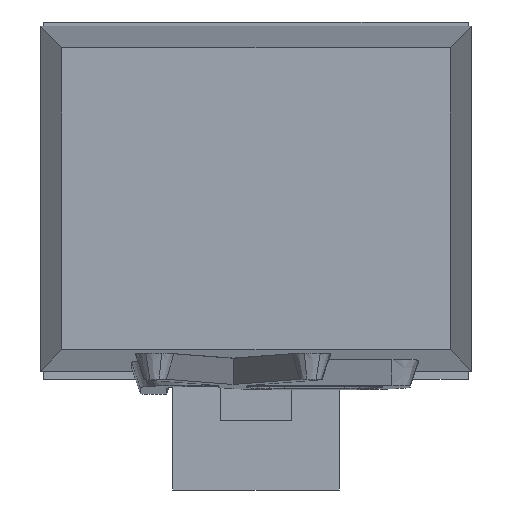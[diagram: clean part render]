
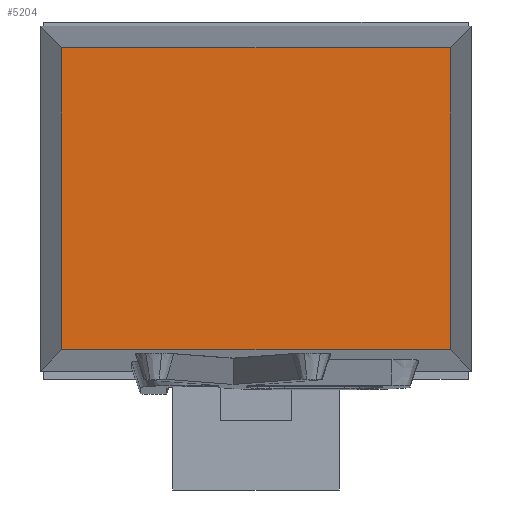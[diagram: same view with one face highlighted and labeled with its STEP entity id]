
A CAD part, front view. The second image highlights one B-rep face of the part: STEP entity #5204.
In plain terms, the highlighted planar face has unit normal (0, -1, 0).
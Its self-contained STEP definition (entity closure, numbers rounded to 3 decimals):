
#320=PLANE('',#5556);
#617=FACE_OUTER_BOUND('',#931,.T.);
#931=EDGE_LOOP('',(#4863,#4864,#4865,#4866));
#1638=LINE('',#9997,#2157);
#1641=LINE('',#10017,#2160);
#1643=LINE('',#10022,#2162);
#1645=LINE('',#10025,#2164);
#2157=VECTOR('',#6724,10.);
#2160=VECTOR('',#6739,10.);
#2162=VECTOR('',#6745,10.);
#2164=VECTOR('',#6749,10.);
#2626=VERTEX_POINT('',#9994);
#2627=VERTEX_POINT('',#9996);
#2630=VERTEX_POINT('',#10016);
#2631=VERTEX_POINT('',#10021);
#3366=EDGE_CURVE('',#2626,#2627,#1638,.T.);
#3372=EDGE_CURVE('',#2630,#2626,#1641,.T.);
#3374=EDGE_CURVE('',#2627,#2631,#1643,.T.);
#3376=EDGE_CURVE('',#2631,#2630,#1645,.T.);
#4863=ORIENTED_EDGE('',*,*,#3372,.F.);
#4864=ORIENTED_EDGE('',*,*,#3376,.F.);
#4865=ORIENTED_EDGE('',*,*,#3374,.F.);
#4866=ORIENTED_EDGE('',*,*,#3366,.F.);
#5204=ADVANCED_FACE('',(#617),#320,.F.);
#5556=AXIS2_PLACEMENT_3D('',#10026,#6750,#6751);
#6724=DIRECTION('',(-1.,0.,0.));
#6739=DIRECTION('',(0.,0.,-1.));
#6745=DIRECTION('',(0.,0.,1.));
#6749=DIRECTION('',(1.,0.,0.));
#6750=DIRECTION('center_axis',(0.,1.,0.));
#6751=DIRECTION('ref_axis',(-1.,0.,0.));
#9994=CARTESIAN_POINT('',(4.5,-15.983,-3.458));
#9996=CARTESIAN_POINT('',(-4.5,-15.983,-3.458));
#9997=CARTESIAN_POINT('',(2.5,-15.983,-3.458));
#10016=CARTESIAN_POINT('',(4.5,-15.983,3.542));
#10017=CARTESIAN_POINT('',(4.5,-15.983,2.042));
#10021=CARTESIAN_POINT('',(-4.5,-15.983,3.542));
#10022=CARTESIAN_POINT('',(-4.5,-15.983,-1.958));
#10025=CARTESIAN_POINT('',(-2.5,-15.983,3.542));
#10026=CARTESIAN_POINT('Origin',(0.,-15.983,0.042));
